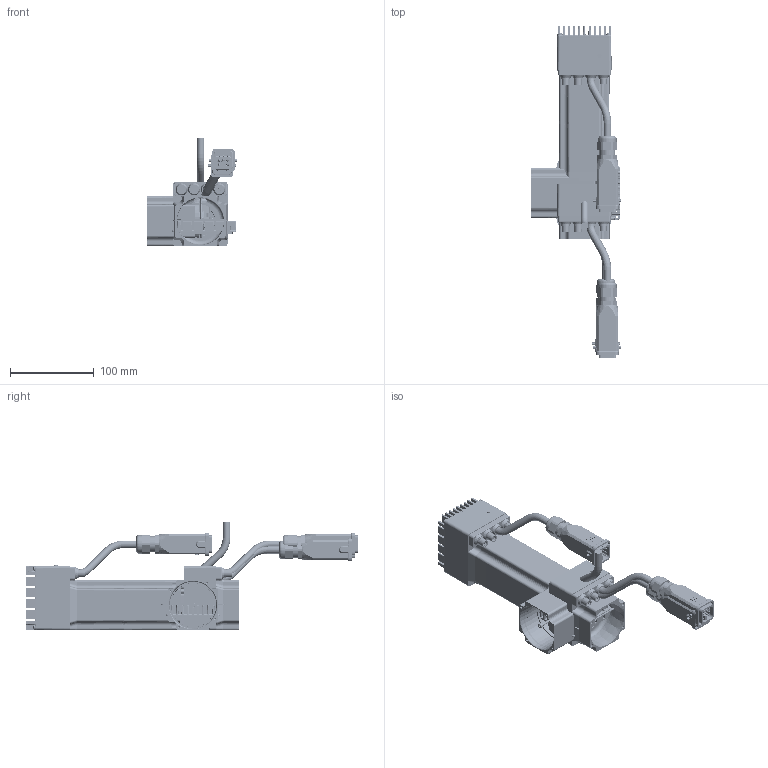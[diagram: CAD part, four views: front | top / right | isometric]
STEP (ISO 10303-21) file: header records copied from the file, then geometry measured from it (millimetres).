
FILE_DESCRIPTION( ( 'Unknown' ), '1' );
FILE_NAME( 'K:/Q0A163.stp', 'Unknown', ( 'Unknown' ), ( 'Unknown' ), 'PSStep 14.0', 'Unknown', ' ' );
FILE_SCHEMA( ( 'AUTOMOTIVE_DESIGN { 1 0 10303 214 1 1 1 1 }' ) );
Length unit declared in the file: millimetre
Products named in the file (53): T00089; Assem1; 007117000802; 003108020031; 005117001543; 005117001544; 005603001500; CAVO D9 N13A48; 005117000974; 005117000976; 003755100998; 003251021030; 005007000200; CUSC_15_32_9_6002_ZZ; CUSC_10_26_8_6000_ZZ; A-Ela  15; anello-elastico-chiuso  32; Anello OR 1,78 D47,37-2187-oa0; Anello OR 1,78 D47,37-2187-oa1; Anello OR 1,78 D47,37-2187-oa2; Anello OR 1,78 D25,12-2100-oa3; Vite a brugola testa cil 8,8 -  M  3 x 18; Vite a brugola testa cil 8,8 -  M  3 x 18-oa4; Vite a brugola testa cil 8,8 -  M  3 x 18-oa5; Vite a brugola testa cil 8,8 -  M  3 x 18-oa6; LI-PIA   4x4 x 18; VECST-8112 M  3 x 12; 003303000048; Grano senza punta M  2.5 x 4; 003016000056; LI-PIA   3x3 x 15; 003155001086; Vite a brugola testa cil 8,8 -  M  3 x 8; Vite a brugola testa cil 8,8 -  M  3 x 35; Vite a brugola testa cil 8,8 -  M  3 x 35-oa7; Vite a brugola testa cil 8,8 -  M  3 x 35-oa8; Vite a brugola testa cil 8,8 -  M  3 x 35-oa9; 007803003640; 007055000370; 003175000137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
Bounding box: 108.45 x 396.62 x 129.64 mm (x, y, z)
Volume: 762936.3 mm3; surface area: 518425.2 mm2
Topology: 125 solids, 129 shells, 13966 faces, 35613 edges, 22312 vertices
Faces by surface type: plane 7008, cylinder 4749, bspline 851, sphere 552, cone 406, torus 350, extrusion 50
Full cylindrical faces by diameter (mm): 0.226 x5, 0.296 x5, 0.95 x5, 1 x64, 1.05 x5, 1.6 x40, 1.7 x4, 1.75 x40, 1.8 x5, 2 x5, 2.013 x8, 2.025 x5, 2.25 x5, 2.4 x12, 2.459 x31, 2.5 x21, 2.6 x35, 2.8 x40, 2.9 x3, 3 x52, 3.2 x130, 3.242 x2, 3.4 x40, 3.5 x24, 4 x2, 4.2 x2, 4.333 x3, 4.5 x2, 4.75 x15, 5 x2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
Entity records: 183109 total; most frequent: CARTESIAN_POINT 43413, DIRECTION 22509, ORIENTED_EDGE 21076, EDGE_CURVE 10538, AXIS2_PLACEMENT_3D 8357, VERTEX_POINT 6731, VECTOR 5795, LINE 5785
